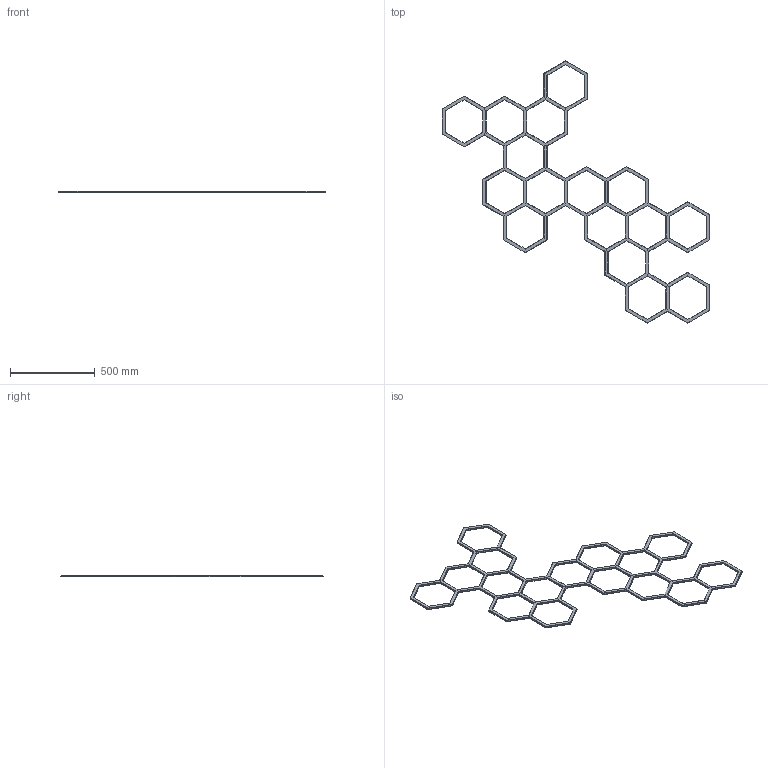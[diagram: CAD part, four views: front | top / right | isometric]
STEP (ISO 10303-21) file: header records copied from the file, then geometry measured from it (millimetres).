
FILE_DESCRIPTION(/* description */ (''),/* implementation_level */ '2;1');
FILE_NAME(/* name */ 'Diffusion Pieces.step',/* time_stamp */ '2025-09-09T19:16:33+08:00',/* author */ (''),/* organization */ (''),/* preprocessor_version */ 'ST-DEVELOPER v20.1',/* originating_system */ 'Autodesk Translation Framework v14.10.0.0',/* authorisation */ '');
FILE_SCHEMA (('AUTOMOTIVE_DESIGN { 1 0 10303 214 3 1 1 }'));
Length unit declared in the file: millimetre
Products named in the file (1): Hex Light
Bounding box: 1580 x 1547.3 x 9.8 mm (x, y, z)
Volume: 515840.4 mm3; surface area: 748760.3 mm2
Topology: 45 solids, 45 shells, 967 faces, 2511 edges, 1634 vertices
Faces by surface type: plane 967
Entity records: 28796 total; most frequent: CARTESIAN_POINT 5113, ORIENTED_EDGE 5022, DIRECTION 4447, LINE 2511, VECTOR 2511, EDGE_CURVE 2511, VERTEX_POINT 1634, AXIS2_PLACEMENT_3D 968
